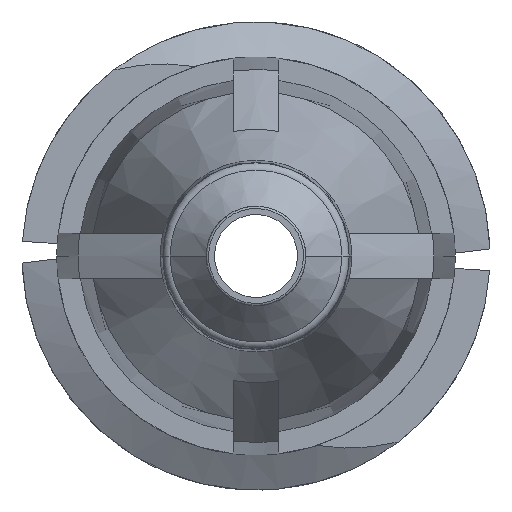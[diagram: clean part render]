
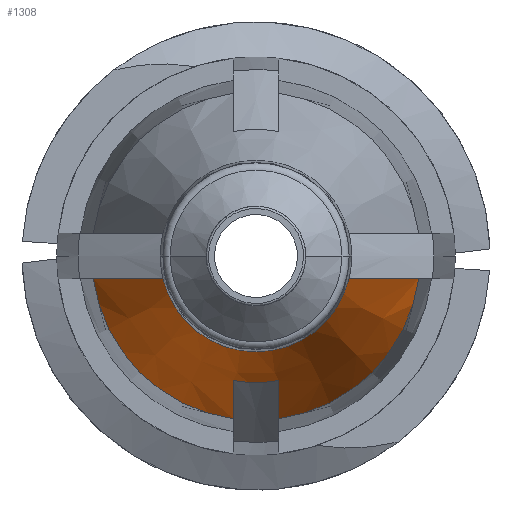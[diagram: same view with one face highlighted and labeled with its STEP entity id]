
A CAD part, front view. The second image highlights one B-rep face of the part: STEP entity #1308.
In plain terms, the highlighted conical face has half-angle 20 degrees and reference radius 2.745 mm.
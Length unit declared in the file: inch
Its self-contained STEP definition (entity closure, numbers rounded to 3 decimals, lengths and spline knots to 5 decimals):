
#44 = AXIS2_PLACEMENT_3D ( 'NONE', #3130, #2872, #2659 ) ;
#50 = VERTEX_POINT ( 'NONE', #3272 ) ;
#78 = CARTESIAN_POINT ( 'NONE',  ( 0.015, -0.406, -0.10703 ) ) ;
#95 = CARTESIAN_POINT ( 'NONE',  ( 0.015, -0.45131, -0.09036 ) ) ;
#127 = CARTESIAN_POINT ( 'NONE',  ( -0.09185, -0.44732, -0.015 ) ) ;
#299 = DIRECTION ( 'NONE',  ( 0., 1., 0. ) ) ;
#322 = DIRECTION ( 'NONE',  ( 1., 0., 0. ) ) ;
#572 = B_SPLINE_CURVE_WITH_KNOTS ( 'NONE', 3,
 ( #1315, #776, #2927, #2940 ),
 .UNSPECIFIED., .F., .F.,
 ( 4, 4 ),
 ( 0.00282, 0.00617 ),
 .UNSPECIFIED. ) ;
#675 = ORIENTED_EDGE ( 'NONE', *, *, #3053, .F. ) ;
#696 = B_SPLINE_CURVE_WITH_KNOTS ( 'NONE', 3,
 ( #2310, #3383, #3098, #2823 ),
 .UNSPECIFIED., .F., .F.,
 ( 4, 4 ),
 ( 0.00247, 0.00431 ),
 .UNSPECIFIED. ) ;
#719 = EDGE_CURVE ( 'NONE', #50, #3117, #572, .T. ) ;
#728 = EDGE_CURVE ( 'NONE', #2970, #1253, #2455, .T. ) ;
#776 = CARTESIAN_POINT ( 'NONE',  ( 0.07664, -0.48863, -0.015 ) ) ;
#795 = CARTESIAN_POINT ( 'NONE',  ( -0.10703, -0.406, -0.015 ) ) ;
#833 = VERTEX_POINT ( 'NONE', #873 ) ;
#873 = CARTESIAN_POINT ( 'NONE',  ( -0.06119, -0.52985, -0.015 ) ) ;
#888 = ORIENTED_EDGE ( 'NONE', *, *, #2687, .F. ) ;
#926 = CARTESIAN_POINT ( 'NONE',  ( 0.015, -0.406, -0.10703 ) ) ;
#977 = EDGE_CURVE ( 'NONE', #833, #1663, #1212, .T. ) ;
#985 = ORIENTED_EDGE ( 'NONE', *, *, #728, .F. ) ;
#989 = CARTESIAN_POINT ( 'NONE',  ( -0.015, -0.47395, -0.08198 ) ) ;
#991 = AXIS2_PLACEMENT_3D ( 'NONE', #1064, #299, #1074 ) ;
#1047 = CARTESIAN_POINT ( 'NONE',  ( 0., -0.406, 0. ) ) ;
#1064 = CARTESIAN_POINT ( 'NONE',  ( 0., -0.47395, 0. ) ) ;
#1074 = DIRECTION ( 'NONE',  ( -1., 0., 0. ) ) ;
#1166 = CARTESIAN_POINT ( 'NONE',  ( -0.10703, -0.406, -0.015 ) ) ;
#1171 = ORIENTED_EDGE ( 'NONE', *, *, #1813, .F. ) ;
#1206 = EDGE_CURVE ( 'NONE', #1249, #1663, #1643, .T. ) ;
#1212 = B_SPLINE_CURVE_WITH_KNOTS ( 'NONE', 3,
 ( #2465, #3059, #127, #1166 ),
 .UNSPECIFIED., .F., .F.,
 ( 4, 4 ),
 ( 0.00282, 0.00617 ),
 .UNSPECIFIED. ) ;
#1242 = CARTESIAN_POINT ( 'NONE',  ( -0.015, -0.406, -0.10703 ) ) ;
#1249 = VERTEX_POINT ( 'NONE', #1242 ) ;
#1253 = VERTEX_POINT ( 'NONE', #989 ) ;
#1293 = FACE_OUTER_BOUND ( 'NONE', #1511, .T. ) ;
#1308 = ADVANCED_FACE ( 'NONE', ( #1293 ), #3353, .T. ) ;
#1315 = CARTESIAN_POINT ( 'NONE',  ( 0.06119, -0.52985, -0.015 ) ) ;
#1383 = CIRCLE ( 'NONE', #1604, 0.063 ) ;
#1511 = EDGE_LOOP ( 'NONE', ( #2880, #2990, #1790, #2155, #675, #985, #888, #1171 ) ) ;
#1516 = VERTEX_POINT ( 'NONE', #926 ) ;
#1604 = AXIS2_PLACEMENT_3D ( 'NONE', #3368, #1805, #2510 ) ;
#1642 = CARTESIAN_POINT ( 'NONE',  ( 0., -0.406, 0. ) ) ;
#1643 = CIRCLE ( 'NONE', #2681, 0.10808 ) ;
#1663 = VERTEX_POINT ( 'NONE', #795 ) ;
#1790 = ORIENTED_EDGE ( 'NONE', *, *, #977, .T. ) ;
#1805 = DIRECTION ( 'NONE',  ( 0., 1., 0. ) ) ;
#1813 = EDGE_CURVE ( 'NONE', #3117, #1516, #2746, .T. ) ;
#1890 = CARTESIAN_POINT ( 'NONE',  ( 0.10703, -0.406, -0.015 ) ) ;
#2011 = DIRECTION ( 'NONE',  ( 1., 0., 0. ) ) ;
#2047 = AXIS2_PLACEMENT_3D ( 'NONE', #1642, #2686, #322 ) ;
#2095 = DIRECTION ( 'NONE',  ( 0., 1., 0. ) ) ;
#2155 = ORIENTED_EDGE ( 'NONE', *, *, #1206, .F. ) ;
#2310 = CARTESIAN_POINT ( 'NONE',  ( -0.015, -0.47395, -0.08198 ) ) ;
#2455 = CIRCLE ( 'NONE', #991, 0.08335 ) ;
#2465 = CARTESIAN_POINT ( 'NONE',  ( -0.06119, -0.52985, -0.015 ) ) ;
#2510 = DIRECTION ( 'NONE',  ( 1., 0., 0. ) ) ;
#2659 = DIRECTION ( 'NONE',  ( 1., 0., 0. ) ) ;
#2681 = AXIS2_PLACEMENT_3D ( 'NONE', #1047, #2095, #2011 ) ;
#2686 = DIRECTION ( 'NONE',  ( 0., 1., 0. ) ) ;
#2687 = EDGE_CURVE ( 'NONE', #1516, #2970, #2910, .T. ) ;
#2695 = CARTESIAN_POINT ( 'NONE',  ( 0.015, -0.47395, -0.08198 ) ) ;
#2697 = CARTESIAN_POINT ( 'NONE',  ( 0.015, -0.47395, -0.08198 ) ) ;
#2746 = CIRCLE ( 'NONE', #2047, 0.10808 ) ;
#2823 = CARTESIAN_POINT ( 'NONE',  ( -0.015, -0.406, -0.10703 ) ) ;
#2872 = DIRECTION ( 'NONE',  ( 0., 1., 0. ) ) ;
#2880 = ORIENTED_EDGE ( 'NONE', *, *, #719, .F. ) ;
#2910 = B_SPLINE_CURVE_WITH_KNOTS ( 'NONE', 3,
 ( #78, #3231, #95, #2697 ),
 .UNSPECIFIED., .F., .F.,
 ( 4, 4 ),
 ( 0.00343, 0.00527 ),
 .UNSPECIFIED. ) ;
#2927 = CARTESIAN_POINT ( 'NONE',  ( 0.09185, -0.44732, -0.015 ) ) ;
#2940 = CARTESIAN_POINT ( 'NONE',  ( 0.10703, -0.406, -0.015 ) ) ;
#2970 = VERTEX_POINT ( 'NONE', #2695 ) ;
#2990 = ORIENTED_EDGE ( 'NONE', *, *, #3385, .T. ) ;
#3053 = EDGE_CURVE ( 'NONE', #1253, #1249, #696, .T. ) ;
#3059 = CARTESIAN_POINT ( 'NONE',  ( -0.07664, -0.48863, -0.015 ) ) ;
#3098 = CARTESIAN_POINT ( 'NONE',  ( -0.015, -0.42866, -0.0987 ) ) ;
#3117 = VERTEX_POINT ( 'NONE', #1890 ) ;
#3130 = CARTESIAN_POINT ( 'NONE',  ( 0., -0.406, 0. ) ) ;
#3231 = CARTESIAN_POINT ( 'NONE',  ( 0.015, -0.42866, -0.0987 ) ) ;
#3272 = CARTESIAN_POINT ( 'NONE',  ( 0.06119, -0.52985, -0.015 ) ) ;
#3353 = CONICAL_SURFACE ( 'NONE', #44, 0.10808, 0.349 ) ;
#3368 = CARTESIAN_POINT ( 'NONE',  ( 0., -0.52985, 0. ) ) ;
#3383 = CARTESIAN_POINT ( 'NONE',  ( -0.015, -0.45131, -0.09036 ) ) ;
#3385 = EDGE_CURVE ( 'NONE', #50, #833, #1383, .T. ) ;
